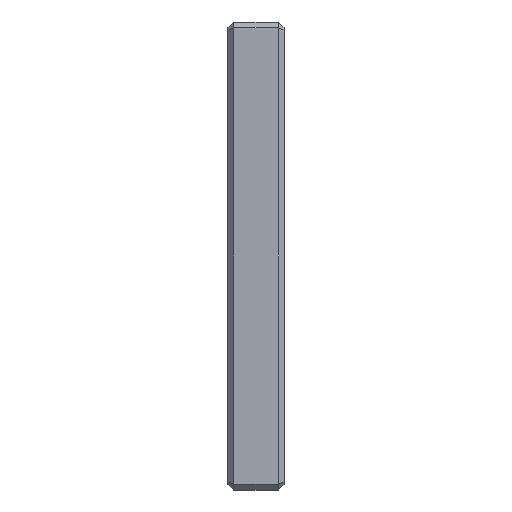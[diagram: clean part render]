
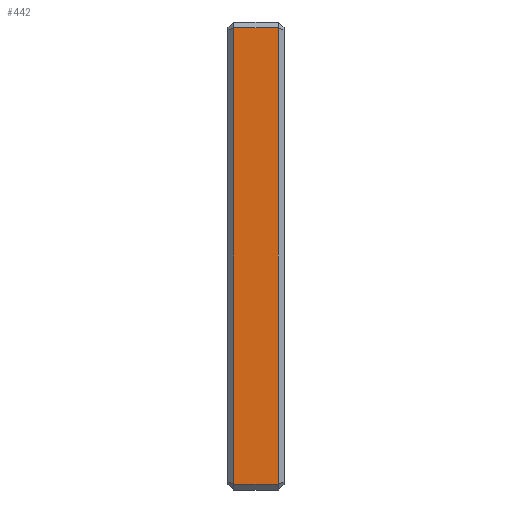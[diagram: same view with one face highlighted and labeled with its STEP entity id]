
A CAD part, left-side view. The second image highlights one B-rep face of the part: STEP entity #442.
In plain terms, the highlighted planar face has unit normal (-1, 0, 0).
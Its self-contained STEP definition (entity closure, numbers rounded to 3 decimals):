
#8 = LINE ( 'NONE', #14, #1080 ) ;
#14 = CARTESIAN_POINT ( 'NONE',  ( -12.5, 1.5, -12.2 ) ) ;
#21 = ORIENTED_EDGE ( 'NONE', *, *, #1333, .T. ) ;
#89 = DIRECTION ( 'NONE',  ( 0., 1., 0. ) ) ;
#121 = LINE ( 'NONE', #440, #1207 ) ;
#128 = LINE ( 'NONE', #411, #831 ) ;
#230 = CARTESIAN_POINT ( 'NONE',  ( -12.5, 1.2, 12.2 ) ) ;
#239 = CARTESIAN_POINT ( 'NONE',  ( -12.5, 1.5, -12.5 ) ) ;
#247 = FACE_OUTER_BOUND ( 'NONE', #1211, .T. ) ;
#252 = ORIENTED_EDGE ( 'NONE', *, *, #601, .T. ) ;
#273 = EDGE_CURVE ( 'NONE', #1441, #1457, #121, .T. ) ;
#319 = CARTESIAN_POINT ( 'NONE',  ( -12.5, -1.2, -12.2 ) ) ;
#349 = DIRECTION ( 'NONE',  ( 0., 0., -1. ) ) ;
#411 = CARTESIAN_POINT ( 'NONE',  ( -12.5, 1.5, 12.2 ) ) ;
#440 = CARTESIAN_POINT ( 'NONE',  ( -12.5, -1.2, -12.5 ) ) ;
#442 = ADVANCED_FACE ( 'NONE', ( #247 ), #1037, .F. ) ;
#471 = DIRECTION ( 'NONE',  ( 0., -1., 0. ) ) ;
#486 = VERTEX_POINT ( 'NONE', #230 ) ;
#509 = VERTEX_POINT ( 'NONE', #792 ) ;
#599 = CARTESIAN_POINT ( 'NONE',  ( -12.5, 1.2, -12.2 ) ) ;
#601 = EDGE_CURVE ( 'NONE', #486, #509, #1111, .T. ) ;
#613 = EDGE_CURVE ( 'NONE', #509, #1441, #8, .T. ) ;
#792 = CARTESIAN_POINT ( 'NONE',  ( -12.5, 1.2, -12.2 ) ) ;
#831 = VECTOR ( 'NONE', #89, 1000. ) ;
#1037 = PLANE ( 'NONE',  #1447 ) ;
#1080 = VECTOR ( 'NONE', #471, 1000. ) ;
#1111 = LINE ( 'NONE', #599, #1189 ) ;
#1189 = VECTOR ( 'NONE', #1414, 1000. ) ;
#1207 = VECTOR ( 'NONE', #1491, 1000. ) ;
#1211 = EDGE_LOOP ( 'NONE', ( #1375, #1322, #21, #252 ) ) ;
#1322 = ORIENTED_EDGE ( 'NONE', *, *, #273, .T. ) ;
#1333 = EDGE_CURVE ( 'NONE', #1457, #486, #128, .T. ) ;
#1369 = DIRECTION ( 'NONE',  ( 1., 0., 0. ) ) ;
#1375 = ORIENTED_EDGE ( 'NONE', *, *, #613, .T. ) ;
#1414 = DIRECTION ( 'NONE',  ( 0., 0., -1. ) ) ;
#1441 = VERTEX_POINT ( 'NONE', #319 ) ;
#1447 = AXIS2_PLACEMENT_3D ( 'NONE', #239, #1369, #349 ) ;
#1457 = VERTEX_POINT ( 'NONE', #1469 ) ;
#1469 = CARTESIAN_POINT ( 'NONE',  ( -12.5, -1.2, 12.2 ) ) ;
#1491 = DIRECTION ( 'NONE',  ( 0., 0., 1. ) ) ;
